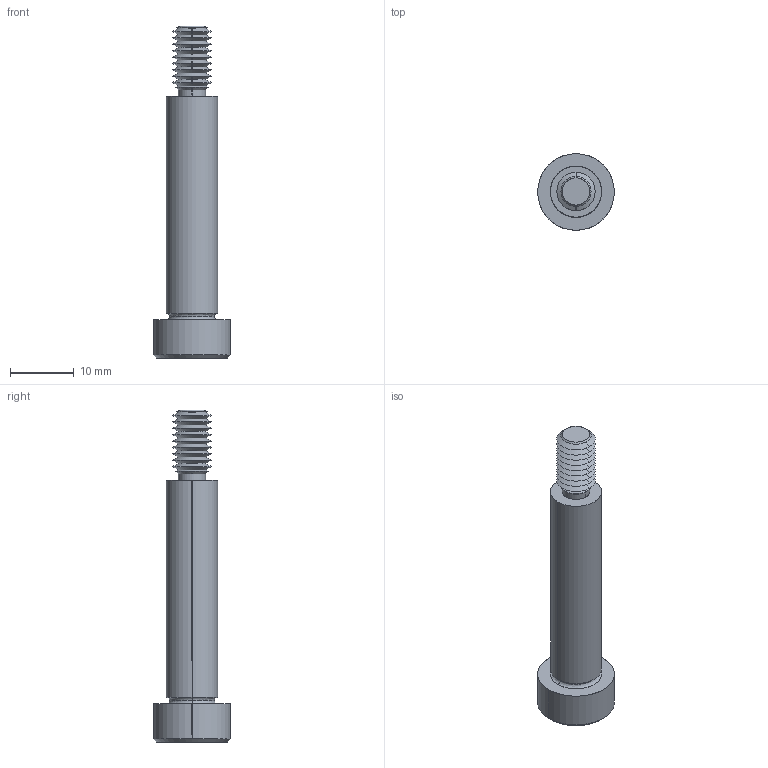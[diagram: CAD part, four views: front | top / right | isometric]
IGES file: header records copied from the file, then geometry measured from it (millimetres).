
Start section: SolidWorks IGES file using analytic representation for surfaces
Global section: file name: C:\Users\IanO\Documents\Temp Folder\GENERAL\SCREW REVISION\P0130_v2\P0130.T5_v2_20220106_IGES\P0130.080-035-T5.igs; native system: SolidWorks 2019; preprocessor: SolidWorks 2019; author: IanO; date: 220106.223525; units: millimetre
Bounding box: 12 x 12 x 52 mm (x, y, z)
Surface area: 1715.9 mm2 (no closed solid volume)
Topology: 0 solids, 0 shells, 80 faces, 580 edges, 578 vertices
Faces by surface type: revolution 60, bspline 20
